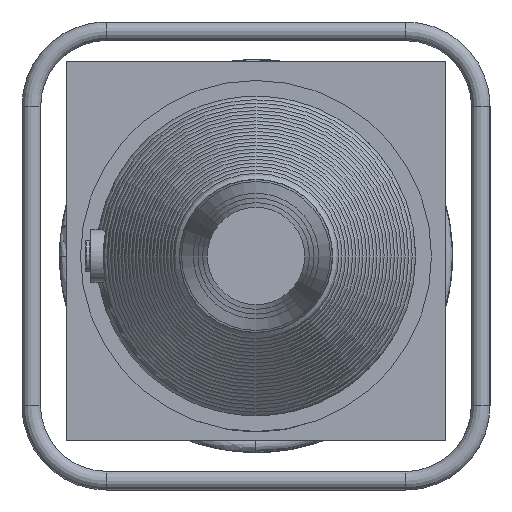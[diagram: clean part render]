
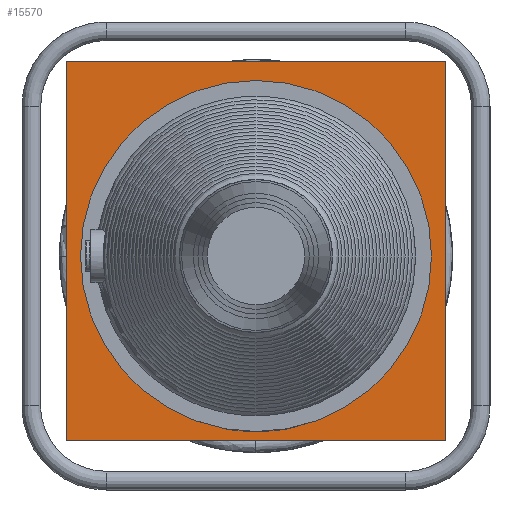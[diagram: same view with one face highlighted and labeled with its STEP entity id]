
A CAD part, left-side view. The second image highlights one B-rep face of the part: STEP entity #15570.
In plain terms, the highlighted planar face has unit normal (-1, 0, 0).
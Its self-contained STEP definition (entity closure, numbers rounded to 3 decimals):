
#1523=PLANE('',#16436);
#2428=LINE('',#40485,#3340);
#2432=LINE('',#40493,#3344);
#2436=LINE('',#40500,#3348);
#2439=LINE('',#40505,#3351);
#3340=VECTOR('',#19036,405.);
#3344=VECTOR('',#19042,405.);
#3348=VECTOR('',#19048,405.);
#3351=VECTOR('',#19053,405.);
#3619=FACE_BOUND('',#5600,.T.);
#4521=FACE_OUTER_BOUND('',#5599,.T.);
#5599=EDGE_LOOP('',(#14039,#14040,#14041,#14042));
#5600=EDGE_LOOP('',(#14043));
#6138=CIRCLE('',#16376,187.5);
#7648=VERTEX_POINT('',#36346);
#7669=VERTEX_POINT('',#40483);
#7670=VERTEX_POINT('',#40484);
#7673=VERTEX_POINT('',#40492);
#7675=VERTEX_POINT('',#40499);
#9801=EDGE_CURVE('',#7648,#7648,#6138,.T.);
#9824=EDGE_CURVE('',#7669,#7670,#2428,.T.);
#9828=EDGE_CURVE('',#7670,#7673,#2432,.T.);
#9832=EDGE_CURVE('',#7673,#7675,#2436,.T.);
#9835=EDGE_CURVE('',#7675,#7669,#2439,.T.);
#14039=ORIENTED_EDGE('',*,*,#9835,.T.);
#14040=ORIENTED_EDGE('',*,*,#9824,.T.);
#14041=ORIENTED_EDGE('',*,*,#9828,.T.);
#14042=ORIENTED_EDGE('',*,*,#9832,.T.);
#14043=ORIENTED_EDGE('',*,*,#9801,.T.);
#15570=ADVANCED_FACE('',(#4521,#3619),#1523,.T.);
#16376=AXIS2_PLACEMENT_3D('',#36347,#18922,#18923);
#16436=AXIS2_PLACEMENT_3D('',#40507,#19055,#19056);
#18922=DIRECTION('center_axis',(1.,0.,0.));
#18923=DIRECTION('ref_axis',(0.,1.,0.));
#19036=DIRECTION('',(0.,0.,-1.));
#19042=DIRECTION('',(0.,-1.,0.));
#19048=DIRECTION('',(0.,0.,1.));
#19053=DIRECTION('',(0.,1.,0.));
#19055=DIRECTION('center_axis',(-1.,0.,0.));
#19056=DIRECTION('ref_axis',(0.,0.,-1.));
#36346=CARTESIAN_POINT('',(-112.151,187.5,0.));
#36347=CARTESIAN_POINT('Origin',(-112.151,0.,
0.));
#40483=CARTESIAN_POINT('',(-112.151,202.5,207.753));
#40484=CARTESIAN_POINT('',(-112.151,202.5,-197.247));
#40485=CARTESIAN_POINT('',(-112.151,202.5,207.753));
#40492=CARTESIAN_POINT('',(-112.151,-202.5,-197.247));
#40493=CARTESIAN_POINT('',(-112.151,202.5,-197.247));
#40499=CARTESIAN_POINT('',(-112.151,-202.5,207.753));
#40500=CARTESIAN_POINT('',(-112.151,-202.5,-197.247));
#40505=CARTESIAN_POINT('',(-112.151,-202.5,207.753));
#40507=CARTESIAN_POINT('Origin',(-112.151,0.,5.253));
